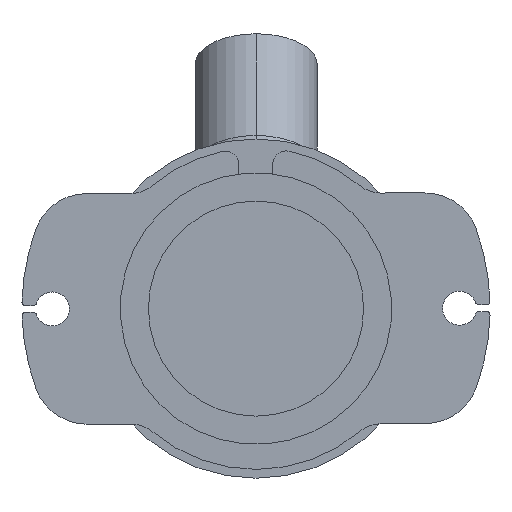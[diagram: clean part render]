
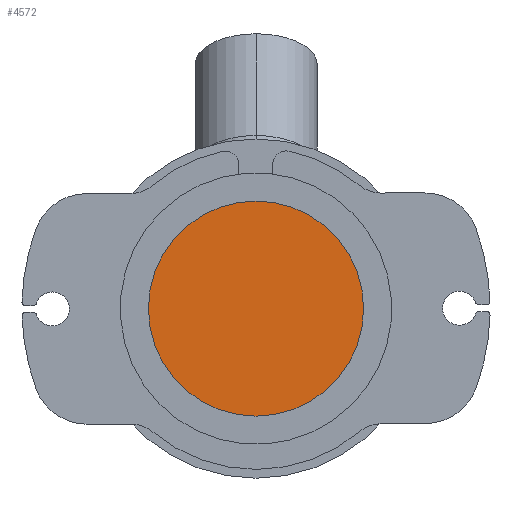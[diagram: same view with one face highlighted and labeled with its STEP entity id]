
A CAD part, front view. The second image highlights one B-rep face of the part: STEP entity #4572.
In plain terms, the highlighted planar face has unit normal (0, -1, 0).
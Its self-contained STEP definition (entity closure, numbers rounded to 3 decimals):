
#38 = CARTESIAN_POINT ( 'NONE',  ( -1.004, -95.381, 34.15 ) ) ;
#72 = PLANE ( 'NONE',  #4965 ) ;
#328 = EDGE_LOOP ( 'NONE', ( #3834, #2957 ) ) ;
#355 = VERTEX_POINT ( 'NONE', #4369 ) ;
#1017 = DIRECTION ( 'NONE',  ( 0., 0., -1. ) ) ;
#1062 = CARTESIAN_POINT ( 'NONE',  ( -1.004, -95.381, 50. ) ) ;
#1117 = DIRECTION ( 'NONE',  ( 0., 0., -1. ) ) ;
#1175 = DIRECTION ( 'NONE',  ( 0., -1., 0. ) ) ;
#1203 = EDGE_CURVE ( 'NONE', #355, #4122, #3459, .T. ) ;
#1657 = CARTESIAN_POINT ( 'NONE',  ( -1.004, -95.381, 50. ) ) ;
#1735 = EDGE_CURVE ( 'NONE', #4122, #355, #3151, .T. ) ;
#2190 = DIRECTION ( 'NONE',  ( 0., -1., 0. ) ) ;
#2405 = DIRECTION ( 'NONE',  ( -1., 0., 0. ) ) ;
#2957 = ORIENTED_EDGE ( 'NONE', *, *, #1203, .T. ) ;
#3151 = CIRCLE ( 'NONE', #5339, 15.85 ) ;
#3459 = CIRCLE ( 'NONE', #4167, 15.85 ) ;
#3834 = ORIENTED_EDGE ( 'NONE', *, *, #1735, .T. ) ;
#3935 = FACE_OUTER_BOUND ( 'NONE', #328, .T. ) ;
#3996 = DIRECTION ( 'NONE',  ( 0., 1., 0. ) ) ;
#4122 = VERTEX_POINT ( 'NONE', #38 ) ;
#4167 = AXIS2_PLACEMENT_3D ( 'NONE', #4901, #1175, #1117 ) ;
#4369 = CARTESIAN_POINT ( 'NONE',  ( -1.004, -95.381, 65.85 ) ) ;
#4572 = ADVANCED_FACE ( 'NONE', ( #3935 ), #72, .F. ) ;
#4901 = CARTESIAN_POINT ( 'NONE',  ( -1.004, -95.381, 50. ) ) ;
#4965 = AXIS2_PLACEMENT_3D ( 'NONE', #1062, #3996, #2405 ) ;
#5339 = AXIS2_PLACEMENT_3D ( 'NONE', #1657, #2190, #1017 ) ;
